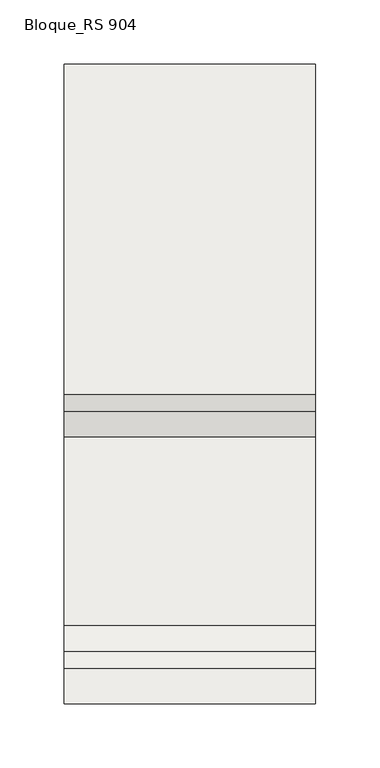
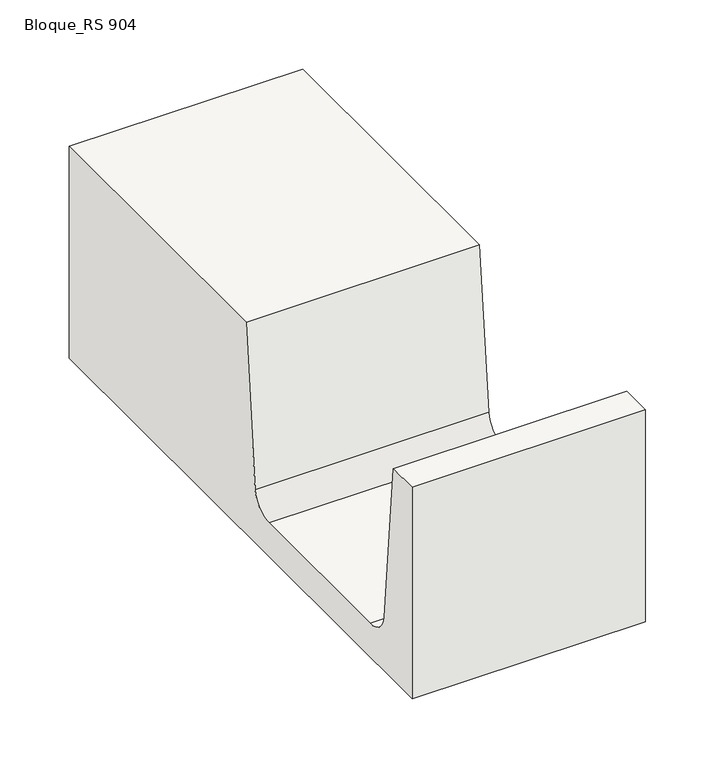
"""IFC4 building model written with IfcOpenShell, lengths in millimetres: slab geometry, ROSA GRES_RS 904 : Bloque_RS 904."""

from ifc_helpers import new_model, si_unit, point, frame, frame_2d, origin, place, context, project, spatial, polyline, circle_curve, trimmed, segment, composite_curve, outline, extrude, source, transform, mapped, element, save


def bloque_rs_904_754e9b9e(model_context):
    return source(origin(), model_context, "Body", "SweptSolid", [
        extrude(outline(composite_curve([segment(polyline([(-12.836227, 188.7539108), (-12.836227, 1.7539108), (-508.836227, 1.7539108), (-508.836227, 188.7539108), (-481.967602, 188.7539108), (-468.4315983, 49.1487962)]), True, "CONTINUOUS"), segment(trimmed(circle_curve(frame_2d((-448.7892677, 51.599206)), 19.7945866), [point((-468.4315983, 49.1487962))], [point((-448.3978535, 31.8084896))], True, "CARTESIAN"), True, "CONTINUOUS"), segment(polyline([(-448.3978535, 31.8084896), (-302.2746005, 31.8084896)]), True, "CONTINUOUS"), segment(trimmed(circle_curve(frame_2d((-301.8831862, 51.599206)), 19.7945866), [point((-302.2746005, 31.8084896))], [point((-282.2408556, 49.1487962))], True, "CARTESIAN"), True, "CONTINUOUS"), segment(polyline([(-282.2408556, 49.1487962), (-268.704852, 188.7539108), (-12.836227, 188.7539108)]), True, "CONTINUOUS")], self_intersect=False)), frame((0.0, 0.0, 0.0), z_axis=(1.0, 0.0, 0.0), x_axis=(0.0, 1.0, 0.0)), (0.0, 0.0, 1.0), 195.0),
    ])


if __name__ == "__main__":
    model = new_model("IFC4")
    model_context = context("Model", 3, world=origin())
    ifc_project = project(units=[si_unit("LENGTHUNIT", "METRE", prefix="MILLI")], contexts=[model_context])
    site = spatial("IfcSite", under=ifc_project)
    building = spatial("IfcBuilding", under=site)
    placement = place(None, origin())
    bloque_rs_904_shape = bloque_rs_904_754e9b9e(model_context)
    element("IfcSlab", 1, ObjectType="ROSA GRES_RS 904 : Bloque_RS 904", at=placement, inside=building, context=model_context, shape_type="MappedRepresentation", body=[
        mapped(bloque_rs_904_shape, transform((0.0, 0.0, 0.0), x_axis=(1.0, 0.0, 0.0), y_axis=(0.0, 1.0, 0.0), z_axis=(0.0, 0.0, 1.0))),
    ])
    save(model, "model.ifc")
